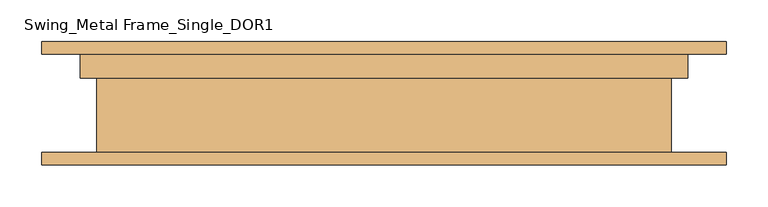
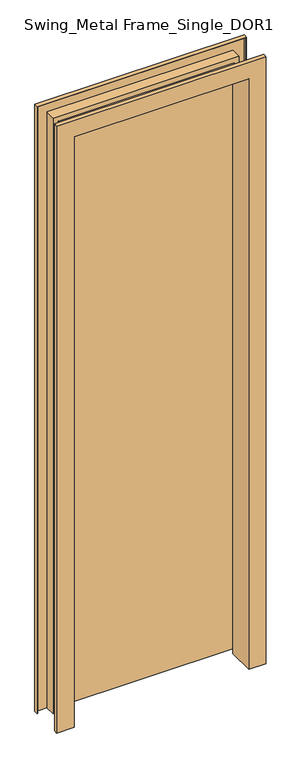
"""IFC4 building model written with IfcOpenShell, lengths in millimetres: door geometry, Swing_Metal Frame_Single_DOR1 : 2040h x 720 (2110x820 STUD)."""

from ifc_helpers import new_model, si_unit, frame, origin, place, context, project, spatial, polyline, outline, extrude, faceted_brep, source, transform, mapped, element, save


def swing_metal_frame_single_dor1_3ff59273(model_context):
    return source(origin(), model_context, "Body", "SolidModel", [
        extrude(outline(polyline([(360.0, 74.0), (360.0, 34.0), (-360.0, 34.0), (-360.0, 74.0), (360.0, 74.0)])), frame((0.0, 0.0, 20.0), z_axis=(0.0, 0.0, 1.0), x_axis=(1.0, 0.0, 0.0)), (0.0, 0.0, 1.0), 2440.0),
        faceted_brep([(-410.0, -74.0, 0.0), (-410.0, -59.0, 0.0), (-408.0, -59.0, 0.0), (-408.0, -72.0, 0.0), (-344.0, -72.0, 0.0), (-344.0, 30.0, 0.0), (-364.0, 30.0, 0.0), (-364.0, 72.0, 0.0), (-408.0, 72.0, 0.0), (-408.0, 59.0, 0.0), (-410.0, 59.0, 0.0), (-410.0, 74.0, 0.0), (-362.0, 74.0, 0.0), (-362.0, 32.0, 0.0), (-342.0, 32.0, 0.0), (-342.0, -74.0, 0.0), (-410.0, -74.0, 2510.0), (-410.0, -59.0, 2510.0), (410.0, -59.0, 2510.0), (410.0, -59.0, 0.0), (408.0, -59.0, 0.0), (408.0, -59.0, 2508.0), (-408.0, -59.0, 2508.0), (-408.0, -72.0, 2508.0), (408.0, -72.0, 2508.0), (408.0, -72.0, 0.0), (344.0, -72.0, 0.0), (344.0, -72.0, 2444.0), (-344.0, -72.0, 2444.0), (-344.0, 30.0, 2444.0), (344.0, 30.0, 2444.0), (344.0, 30.0, 0.0), (364.0, 30.0, 0.0), (364.0, 30.0, 2464.0), (-364.0, 30.0, 2464.0), (-364.0, 72.0, 2464.0), (364.0, 72.0, 2464.0), (364.0, 72.0, 0.0), (408.0, 72.0, 0.0), (408.0, 72.0, 2508.0), (-408.0, 72.0, 2508.0), (-408.0, 59.0, 2508.0), (408.0, 59.0, 2508.0), (408.0, 59.0, 0.0), (410.0, 59.0, 0.0), (410.0, 59.0, 2510.0), (-410.0, 59.0, 2510.0), (-410.0, 74.0, 2510.0), (410.0, 74.0, 2510.0), (410.0, 74.0, 0.0), (362.0, 74.0, 0.0), (362.0, 74.0, 2462.0), (-362.0, 74.0, 2462.0), (-362.0, 32.0, 2462.0), (362.0, 32.0, 2462.0), (362.0, 32.0, 0.0), (342.0, 32.0, 0.0), (342.0, 32.0, 2442.0), (-342.0, 32.0, 2442.0), (-342.0, -74.0, 2442.0), (342.0, -74.0, 2442.0), (342.0, -74.0, 0.0), (410.0, -74.0, 0.0), (410.0, -74.0, 2510.0)], [[[0, 1, 2, 3, 4, 5, 6, 7, 8, 9, 10, 11, 12, 13, 14, 15]], [[1, 0, 16, 17]], [[2, 1, 17, 18, 19, 20, 21, 22]], [[3, 2, 22, 23]], [[4, 3, 23, 24, 25, 26, 27, 28]], [[5, 4, 28, 29]], [[6, 5, 29, 30, 31, 32, 33, 34]], [[7, 6, 34, 35]], [[8, 7, 35, 36, 37, 38, 39, 40]], [[9, 8, 40, 41]], [[10, 9, 41, 42, 43, 44, 45, 46]], [[11, 10, 46, 47]], [[12, 11, 47, 48, 49, 50, 51, 52]], [[13, 12, 52, 53]], [[14, 13, 53, 54, 55, 56, 57, 58]], [[15, 14, 58, 59]], [[0, 15, 59, 60, 61, 62, 63, 16]], [[18, 63, 62, 19]], [[62, 61, 56, 55, 50, 49, 44, 43, 38, 37, 32, 31, 26, 25, 20, 19]], [[24, 21, 20, 25]], [[30, 27, 26, 31]], [[36, 33, 32, 37]], [[42, 39, 38, 43]], [[48, 45, 44, 49]], [[54, 51, 50, 55]], [[60, 57, 56, 61]], [[17, 16, 63, 18]], [[23, 22, 21, 24]], [[29, 28, 27, 30]], [[35, 34, 33, 36]], [[41, 40, 39, 42]], [[47, 46, 45, 48]], [[53, 52, 51, 54]], [[59, 58, 57, 60]]]),
    ])


if __name__ == "__main__":
    model = new_model("IFC4")
    model_context = context("Model", 3, world=origin())
    ifc_project = project(units=[si_unit("LENGTHUNIT", "METRE", prefix="MILLI")], contexts=[model_context])
    site = spatial("IfcSite", under=ifc_project)
    building = spatial("IfcBuilding", under=site)
    placement = place(None, origin())
    swing_metal_frame_single_dor1_shape = swing_metal_frame_single_dor1_3ff59273(model_context)
    element("IfcDoor", 1, ObjectType="Swing_Metal Frame_Single_DOR1 : 2040h x 720 (2110x820 STUD)", at=placement, inside=building, context=model_context, shape_type="MappedRepresentation", body=[
        mapped(swing_metal_frame_single_dor1_shape, transform((0.0, 0.0, 0.0), x_axis=(1.0, 0.0, 0.0), y_axis=(0.0, 1.0, 0.0), z_axis=(0.0, 0.0, 1.0))),
    ])
    save(model, "model.ifc")
